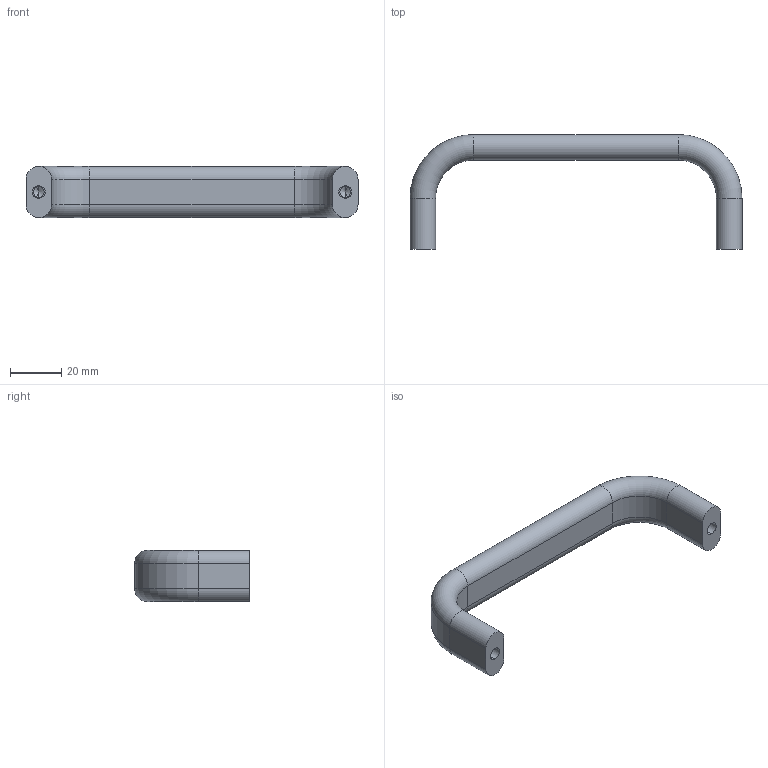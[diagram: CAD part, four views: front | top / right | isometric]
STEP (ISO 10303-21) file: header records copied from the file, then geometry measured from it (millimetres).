
FILE_DESCRIPTION (( 'STEP AP203' ), '1' );
FILE_NAME ('Default.step', '2010-02-11T18:08:27', ( 'Wixroyd' ), ( 'Wixroyd' ), 'SwSTEP 2.0', 'SolidWorks 2009', '' );
FILE_SCHEMA (( 'CONFIG_CONTROL_DESIGN' ));
Length unit declared in the file: millimetre
Products named in the file (1): Default
Bounding box: 130 x 45 x 20 mm (x, y, z)
Volume: 32169.6 mm3; surface area: 10142 mm2
Topology: 1 solids, 1 shells, 38 faces, 82 edges, 46 vertices
Faces by surface type: cylinder 20, plane 10, cone 4, torus 4
Entity records: 1075 total; most frequent: DIRECTION 196, CARTESIAN_POINT 163, ORIENTED_EDGE 156, AXIS2_PLACEMENT_3D 79, EDGE_CURVE 78, VERTEX_POINT 46, EDGE_LOOP 42, CIRCLE 40
